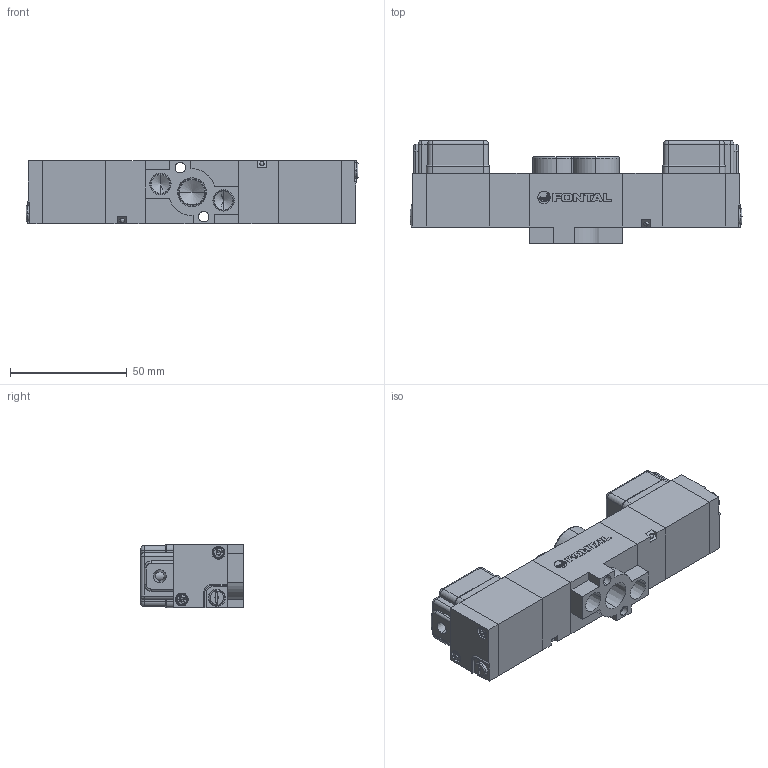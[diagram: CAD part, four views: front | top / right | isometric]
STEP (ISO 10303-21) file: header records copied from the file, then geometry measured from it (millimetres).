
FILE_DESCRIPTION (( 'STEP AP203' ), '1' );
FILE_NAME ('RCD2406-02-#G##.STEP', '2016-02-04T06:10:47', ( 'Sam Lin' ), ( '' ), 'SwSTEP 2.0', 'SolidWorks 2013', '' );
FILE_SCHEMA (( 'CONFIG_CONTROL_DESIGN' ));
Length unit declared in the file: metre
Products named in the file (11): PC6-M4; PCS2406-9; PC6-M3; RC06-4; RC06-5; RC06-1; RCD2406-02-#G##; RC06-3; PC06-MARK; PCS2406-3-小圓珠; PCS2406-3
Assembly tree (20 placements, depth 2):
  RCD2406-02-#G##
    PC06-MARK
    RC06-1
    RC06-3  x2
    PCS2406-3-小圓珠  x2
    PCS2406-3  x2
    PC6-M4  x2
    PCS2406-9  x2
    PC6-M3  x4
    RC06-4  x2
    RC06-5  x2
Bounding box: 142 x 44 x 27.15 mm (x, y, z)
Volume: 107421 mm3; surface area: 37028.4 mm2
Topology: 26 solids, 26 shells, 652 faces, 1596 edges, 986 vertices
Faces by surface type: plane 329, cylinder 150, bspline 83, cone 82, torus 8
Entity records: 13805 total; most frequent: CARTESIAN_POINT 3260, ORIENTED_EDGE 1896, DIRECTION 1880, EDGE_CURVE 948, AXIS2_PLACEMENT_3D 660, VERTEX_POINT 608, VECTOR 560, LINE 560
